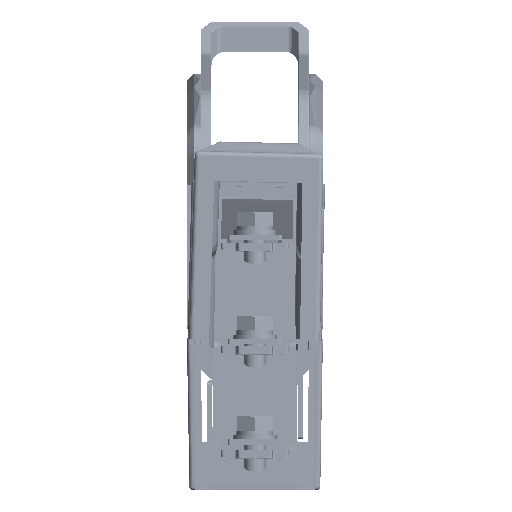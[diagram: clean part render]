
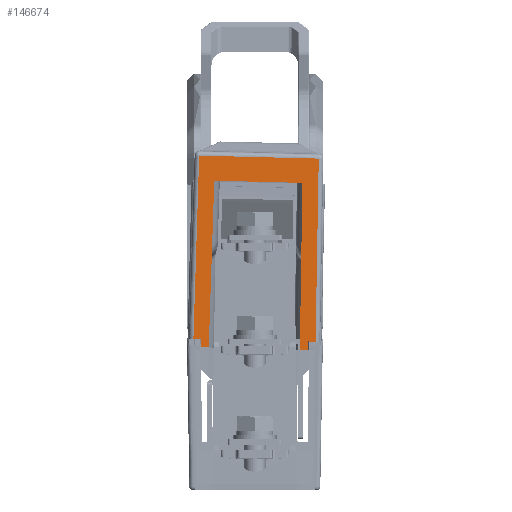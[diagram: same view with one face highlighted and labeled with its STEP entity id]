
A CAD part, front view. The second image highlights one B-rep face of the part: STEP entity #146674.
In plain terms, the highlighted planar face has unit normal (0, -1, 0.017) as drawn and (1, 0.017, 0) by its records, which use the part's own axes.
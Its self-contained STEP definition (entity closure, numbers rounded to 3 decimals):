
#8379 = LINE ( 'NONE', #86297, #202455 ) ;
#11092 = CARTESIAN_POINT ( 'NONE',  ( 667.681, 87.287, -1.849 ) ) ;
#18646 = VERTEX_POINT ( 'NONE', #300234 ) ;
#19158 = ORIENTED_EDGE ( 'NONE', *, *, #89611, .F. ) ;
#20953 = EDGE_CURVE ( 'NONE', #179443, #314313, #141616, .T. ) ;
#21166 = CARTESIAN_POINT ( 'NONE',  ( 667.775, 81.872, -47.587 ) ) ;
#21742 = EDGE_CURVE ( 'NONE', #187273, #290670, #322845, .T. ) ;
#24810 = LINE ( 'NONE', #237269, #101590 ) ;
#26550 = DIRECTION ( 'NONE',  ( 0.017, -1., -0.007 ) ) ;
#31062 = ORIENTED_EDGE ( 'NONE', *, *, #90556, .T. ) ;
#34708 = VERTEX_POINT ( 'NONE', #175698 ) ;
#40273 = VERTEX_POINT ( 'NONE', #333719 ) ;
#45828 = VERTEX_POINT ( 'NONE', #153219 ) ;
#55329 = DIRECTION ( 'NONE',  ( -0.017, 1., -0.007 ) ) ;
#55346 = DIRECTION ( 'NONE',  ( 0., 0., 1. ) ) ;
#58762 = DIRECTION ( 'NONE',  ( 0.017, -1., 0.009 ) ) ;
#59297 = ORIENTED_EDGE ( 'NONE', *, *, #302898, .F. ) ;
#59301 = VERTEX_POINT ( 'NONE', #211895 ) ;
#61758 = DIRECTION ( 'NONE',  ( -0.017, 1., -0.009 ) ) ;
#66470 = VECTOR ( 'NONE', #55329, 1000. ) ;
#68640 = ORIENTED_EDGE ( 'NONE', *, *, #169292, .T. ) ;
#69944 = AXIS2_PLACEMENT_3D ( 'NONE', #11092, #145589, #276739 ) ;
#74959 = EDGE_CURVE ( 'NONE', #59301, #318794, #24810, .T. ) ;
#75028 = CARTESIAN_POINT ( 'NONE',  ( 669.007, 11.287, -8.762 ) ) ;
#75398 = DIRECTION ( 'NONE',  ( 0.017, -1., 0. ) ) ;
#78387 = VECTOR ( 'NONE', #237916, 1000. ) ;
#78399 = LINE ( 'NONE', #110203, #257545 ) ;
#79629 = CARTESIAN_POINT ( 'NONE',  ( 667.934, 72.787, -41.799 ) ) ;
#79860 = ORIENTED_EDGE ( 'NONE', *, *, #256157, .T. ) ;
#81782 = VECTOR ( 'NONE', #75398, 1000. ) ;
#81907 = LINE ( 'NONE', #189889, #66470 ) ;
#83727 = VERTEX_POINT ( 'NONE', #85075 ) ;
#85075 = CARTESIAN_POINT ( 'NONE',  ( 667.775, 81.872, -3.511 ) ) ;
#86297 = CARTESIAN_POINT ( 'NONE',  ( 667.934, 72.787, -41.799 ) ) ;
#89611 = EDGE_CURVE ( 'NONE', #318794, #34708, #78399, .T. ) ;
#90556 = EDGE_CURVE ( 'NONE', #45828, #205051, #286253, .T. ) ;
#90938 = CARTESIAN_POINT ( 'NONE',  ( 668.953, 14.387, -5.849 ) ) ;
#93793 = VERTEX_POINT ( 'NONE', #79629 ) ;
#101590 = VECTOR ( 'NONE', #26550, 1000. ) ;
#101946 = LINE ( 'NONE', #209974, #81782 ) ;
#109082 = CARTESIAN_POINT ( 'NONE',  ( 669.007, 11.287, -45.249 ) ) ;
#110203 = CARTESIAN_POINT ( 'NONE',  ( 668.953, 14.387, -48.058 ) ) ;
#116791 = CARTESIAN_POINT ( 'NONE',  ( 668.953, 14.387, -42.309 ) ) ;
#117334 = DIRECTION ( 'NONE',  ( -0.017, 1., 0.009 ) ) ;
#119927 = EDGE_LOOP ( 'NONE', ( #267393, #264341, #319063, #31062, #187092, #122832, #79860, #231773, #59297, #347522, #209178, #284890, #68640, #19158 ) ) ;
#121488 = EDGE_CURVE ( 'NONE', #45828, #83727, #81907, .T. ) ;
#122832 = ORIENTED_EDGE ( 'NONE', *, *, #21742, .F. ) ;
#126799 = DIRECTION ( 'NONE',  ( 0., 0., -1. ) ) ;
#133001 = EDGE_CURVE ( 'NONE', #59301, #83727, #263716, .T. ) ;
#141616 = LINE ( 'NONE', #116791, #157744 ) ;
#143437 = CARTESIAN_POINT ( 'NONE',  ( 668.953, 14.387, -8.789 ) ) ;
#143658 = CARTESIAN_POINT ( 'NONE',  ( 667.934, 72.787, -9.299 ) ) ;
#144509 = VECTOR ( 'NONE', #284500, 1000. ) ;
#145589 = DIRECTION ( 'NONE',  ( -1., -0.017, 0. ) ) ;
#146674 = ADVANCED_FACE ( 'NONE', ( #303313 ), #168687, .F. ) ;
#153219 = CARTESIAN_POINT ( 'NONE',  ( 668.953, 14.387, -3.04 ) ) ;
#153386 = EDGE_CURVE ( 'NONE', #179443, #93793, #321147, .T. ) ;
#157744 = VECTOR ( 'NONE', #223082, 1000. ) ;
#168687 = PLANE ( 'NONE',  #69944 ) ;
#169292 = EDGE_CURVE ( 'NONE', #40273, #34708, #243691, .T. ) ;
#175698 = CARTESIAN_POINT ( 'NONE',  ( 668.953, 14.387, -45.249 ) ) ;
#177344 = VECTOR ( 'NONE', #58762, 1000. ) ;
#179443 = VERTEX_POINT ( 'NONE', #318923 ) ;
#181649 = LINE ( 'NONE', #268332, #243628 ) ;
#187092 = ORIENTED_EDGE ( 'NONE', *, *, #213720, .T. ) ;
#187273 = VERTEX_POINT ( 'NONE', #264670 ) ;
#189889 = CARTESIAN_POINT ( 'NONE',  ( 668.953, 14.387, -3.04 ) ) ;
#191334 = CARTESIAN_POINT ( 'NONE',  ( 669.007, 11.287, -42.336 ) ) ;
#194627 = CARTESIAN_POINT ( 'NONE',  ( 669.007, 11.287, -8.762 ) ) ;
#196008 = DIRECTION ( 'NONE',  ( 0., 0., 1. ) ) ;
#196368 = LINE ( 'NONE', #194627, #238901 ) ;
#201277 = CARTESIAN_POINT ( 'NONE',  ( 668.953, 14.387, -3.04 ) ) ;
#202455 = VECTOR ( 'NONE', #196008, 1000. ) ;
#205051 = VERTEX_POINT ( 'NONE', #90938 ) ;
#206837 = VECTOR ( 'NONE', #217144, 1000. ) ;
#209178 = ORIENTED_EDGE ( 'NONE', *, *, #20953, .T. ) ;
#209774 = CARTESIAN_POINT ( 'NONE',  ( 668.953, 14.387, -48.058 ) ) ;
#209974 = CARTESIAN_POINT ( 'NONE',  ( 668.953, 14.387, -5.849 ) ) ;
#210712 = EDGE_CURVE ( 'NONE', #18646, #305091, #228574, .T. ) ;
#211895 = CARTESIAN_POINT ( 'NONE',  ( 667.775, 81.872, -47.587 ) ) ;
#213437 = VECTOR ( 'NONE', #117334, 1000. ) ;
#213720 = EDGE_CURVE ( 'NONE', #205051, #290670, #101946, .T. ) ;
#217144 = DIRECTION ( 'NONE',  ( -0.017, 1., 0. ) ) ;
#221883 = CARTESIAN_POINT ( 'NONE',  ( 668.953, 14.387, -42.309 ) ) ;
#223082 = DIRECTION ( 'NONE',  ( 0.017, -1., -0.009 ) ) ;
#228574 = LINE ( 'NONE', #143658, #177344 ) ;
#230212 = EDGE_CURVE ( 'NONE', #314313, #40273, #181649, .T. ) ;
#231773 = ORIENTED_EDGE ( 'NONE', *, *, #210712, .F. ) ;
#237269 = CARTESIAN_POINT ( 'NONE',  ( 667.775, 81.872, -47.587 ) ) ;
#237916 = DIRECTION ( 'NONE',  ( 0., 0., 1. ) ) ;
#238901 = VECTOR ( 'NONE', #61758, 1000. ) ;
#243628 = VECTOR ( 'NONE', #126799, 1000. ) ;
#243691 = LINE ( 'NONE', #109082, #206837 ) ;
#256157 = EDGE_CURVE ( 'NONE', #187273, #305091, #196368, .T. ) ;
#257545 = VECTOR ( 'NONE', #55346, 1000. ) ;
#263716 = LINE ( 'NONE', #21166, #299786 ) ;
#264341 = ORIENTED_EDGE ( 'NONE', *, *, #133001, .T. ) ;
#264670 = CARTESIAN_POINT ( 'NONE',  ( 669.007, 11.287, -8.762 ) ) ;
#267393 = ORIENTED_EDGE ( 'NONE', *, *, #74959, .F. ) ;
#268332 = CARTESIAN_POINT ( 'NONE',  ( 669.007, 11.287, -42.336 ) ) ;
#276739 = DIRECTION ( 'NONE',  ( -0.017, 1., 0. ) ) ;
#284500 = DIRECTION ( 'NONE',  ( 0., 0., -1. ) ) ;
#284890 = ORIENTED_EDGE ( 'NONE', *, *, #230212, .T. ) ;
#286253 = LINE ( 'NONE', #201277, #144509 ) ;
#290670 = VERTEX_POINT ( 'NONE', #327522 ) ;
#299786 = VECTOR ( 'NONE', #313350, 1000. ) ;
#300234 = CARTESIAN_POINT ( 'NONE',  ( 667.934, 72.787, -9.299 ) ) ;
#302898 = EDGE_CURVE ( 'NONE', #93793, #18646, #8379, .T. ) ;
#303313 = FACE_OUTER_BOUND ( 'NONE', #119927, .T. ) ;
#305091 = VERTEX_POINT ( 'NONE', #143437 ) ;
#313350 = DIRECTION ( 'NONE',  ( 0., 0., 1. ) ) ;
#314313 = VERTEX_POINT ( 'NONE', #191334 ) ;
#318794 = VERTEX_POINT ( 'NONE', #209774 ) ;
#318923 = CARTESIAN_POINT ( 'NONE',  ( 668.953, 14.387, -42.309 ) ) ;
#319063 = ORIENTED_EDGE ( 'NONE', *, *, #121488, .F. ) ;
#321147 = LINE ( 'NONE', #221883, #213437 ) ;
#322845 = LINE ( 'NONE', #75028, #78387 ) ;
#327522 = CARTESIAN_POINT ( 'NONE',  ( 669.007, 11.287, -5.849 ) ) ;
#333719 = CARTESIAN_POINT ( 'NONE',  ( 669.007, 11.287, -45.249 ) ) ;
#347522 = ORIENTED_EDGE ( 'NONE', *, *, #153386, .F. ) ;
